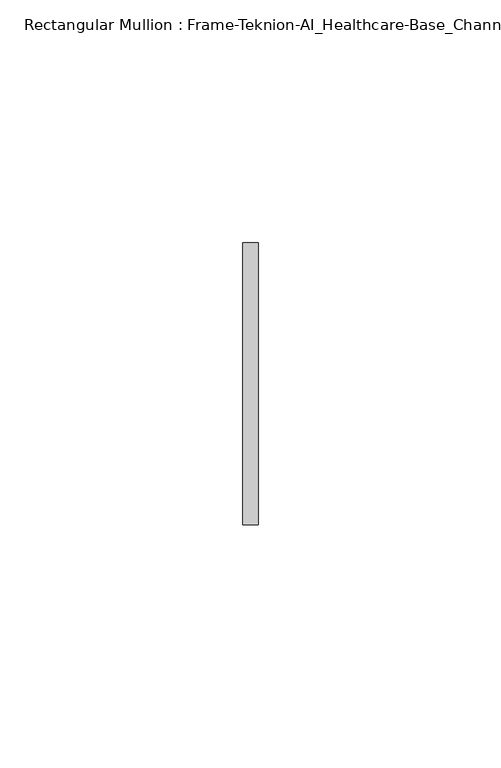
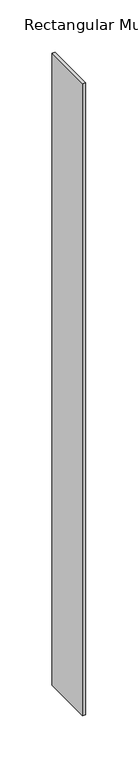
"""IFC4 building model written with IfcOpenShell, lengths in millimetres: member geometry, Rectangular Mullion : Frame-Teknion-AI_Healthcare-Base_Channel."""

import ifcopenshell
import ifcopenshell.guid

model = None  # the IFC model being written
_history = None  # IfcOwnerHistory: only IFC2X3 demands one
_inside = {}  # id of a spatial element -> (the spatial element, [elements in it])
_under = {}  # id of a project, library or spatial element -> (it, [spatial elements below it])
_declared = {}  # id of a project -> (the project, [libraries it declares])
_typed = {}  # id of a type object -> (the type object, [elements of that type])
_made_of = {}  # id of a material, layer set ... -> (it, [elements and type objects made of it])


def new_model(schema):
    """Start an empty IFC model of exactly this schema.

    Asked for "IFC4X3", IfcOpenShell would pick the latest addendum, in which some entities
    have other attributes; the version numbers below select the first issue.
    IFC2X3 requires an IfcOwnerHistory on every rooted entity: one is made here for all.
    """
    global model, _history
    if schema == "IFC4X3":
        model = ifcopenshell.file(schema_version=(4, 3, 0, 0))
    else:
        model = ifcopenshell.file(schema=schema)
    _inside.clear()
    _under.clear()
    _declared.clear()
    _typed.clear()
    _made_of.clear()
    _history = None
    if model.schema == "IFC2X3":
        org = make("IfcOrganization", Name="unknown")
        user = make(
            "IfcPersonAndOrganization",
            ThePerson=make("IfcPerson", FamilyName="unknown"),
            TheOrganization=org,
        )
        app = make(
            "IfcApplication",
            ApplicationDeveloper=org,
            Version="unknown",
            ApplicationFullName="unknown",
            ApplicationIdentifier="unknown",
        )
        _history = make(
            "IfcOwnerHistory",
            OwningUser=user,
            OwningApplication=app,
            ChangeAction="ADDED",
            CreationDate=0,
        )
    return model


def make(cls, **values):
    """One entity of the class cls with the attributes given. An attribute that is None is left unset."""
    return model.create_entity(
        cls, **{name: value for name, value in values.items() if value is not None}
    )


def rooted(cls, **values):
    """An entity with a GlobalId (a new one), such as an element, a storey or a relation."""
    return make(cls, GlobalId=ifcopenshell.guid.new(), OwnerHistory=_history, **values)


def si_unit(unit_type, name, prefix=None):
    """IfcSIUnit, for example si_unit("LENGTHUNIT", "METRE", prefix="MILLI")."""
    return make("IfcSIUnit", UnitType=unit_type, Prefix=prefix, Name=name)


def assignment(units):
    """IfcUnitAssignment: the units of a project."""
    return None if units is None else make("IfcUnitAssignment", Units=units)


def point(xyz):
    """IfcCartesianPoint."""
    return None if xyz is None else make("IfcCartesianPoint", Coordinates=xyz)


def direction(xyz):
    """IfcDirection."""
    return None if xyz is None else make("IfcDirection", DirectionRatios=xyz)


def frame(location, z_axis=None, x_axis=None):
    """IfcAxis2Placement3D, a coordinate frame: its origin and axes. An axis left out is left unset."""
    return make(
        "IfcAxis2Placement3D",
        Location=point(location),
        Axis=direction(z_axis),
        RefDirection=direction(x_axis),
    )


def origin():
    """The frame at (0, 0, 0) with its axes left unset."""
    return frame((0.0, 0.0, 0.0))


def place(relative_to, where):
    """IfcLocalPlacement: puts the frame where relative to a parent placement (None: the world)."""
    return make(
        "IfcLocalPlacement", PlacementRelTo=relative_to, RelativePlacement=where
    )


def context(
    kind, dimensions, precision=None, world=None, true_north=None, identifier=None
):
    """IfcGeometricRepresentationContext, for example the 3D "Model" context."""
    return make(
        "IfcGeometricRepresentationContext",
        ContextIdentifier=identifier,
        ContextType=kind,
        CoordinateSpaceDimension=dimensions,
        Precision=precision,
        WorldCoordinateSystem=world,
        TrueNorth=true_north,
    )


def project(units=None, contexts=None):
    """IfcProject with its units and contexts."""
    return rooted(
        "IfcProject",
        Name="project",
        RepresentationContexts=contexts,
        UnitsInContext=assignment(units),
    )


def spatial(cls, under=None, at=None, **own):
    """A site, building, storey or space (cls), placed at a placement, below another one or the project."""
    s = rooted(cls, ObjectPlacement=at, **own)
    if under is not None:
        _under.setdefault(under.id(), (under, []))[1].append(s)
    return s


def polyline(points):
    """IfcPolyline through the points."""
    return make("IfcPolyline", Points=[point(p) for p in points])


def outline(outer, holes=None, kind="AREA"):
    """IfcArbitraryClosedProfileDef: a profile drawn as a closed curve; with holes, ...WithVoids."""
    if holes is None:
        return make("IfcArbitraryClosedProfileDef", ProfileType=kind, OuterCurve=outer)
    return make(
        "IfcArbitraryProfileDefWithVoids",
        ProfileType=kind,
        OuterCurve=outer,
        InnerCurves=holes,
    )


def extrude(swept, where, along, depth):
    """IfcExtrudedAreaSolid: the profile swept, set in the frame where, extruded along a direction by depth."""
    return make(
        "IfcExtrudedAreaSolid",
        SweptArea=swept,
        Position=where,
        ExtrudedDirection=direction(along),
        Depth=depth,
    )


def shape(context_of_items, identifier, shape_type, items):
    """IfcShapeRepresentation: the items that make up one representation, for example the "Body"."""
    return make(
        "IfcShapeRepresentation",
        ContextOfItems=context_of_items,
        RepresentationIdentifier=identifier,
        RepresentationType=shape_type,
        Items=items,
    )


def source(mapping_origin, context_of_items, identifier, shape_type, items):
    """IfcRepresentationMap: a shape defined once, which mapped items show again and again."""
    return make(
        "IfcRepresentationMap",
        MappingOrigin=mapping_origin,
        MappedRepresentation=shape(context_of_items, identifier, shape_type, items),
    )


def transform(
    local_origin,
    x_axis=None,
    y_axis=None,
    z_axis=None,
    scale=None,
    scale2=None,
    scale3=None,
    uniform=True,
):
    """IfcCartesianTransformationOperator3D, or its non-uniform kind. x_axis, y_axis, z_axis: its Axis1, 2, 3."""
    if uniform:
        return make(
            "IfcCartesianTransformationOperator3D",
            Axis1=direction(x_axis),
            Axis2=direction(y_axis),
            LocalOrigin=point(local_origin),
            Scale=scale,
            Axis3=direction(z_axis),
        )
    return make(
        "IfcCartesianTransformationOperator3DnonUniform",
        Axis1=direction(x_axis),
        Axis2=direction(y_axis),
        LocalOrigin=point(local_origin),
        Scale=scale,
        Axis3=direction(z_axis),
        Scale2=scale2,
        Scale3=scale3,
    )


def mapped(mapping_source, mapping_target):
    """IfcMappedItem: shows the shape of a source again, moved by a transform."""
    return make(
        "IfcMappedItem", MappingSource=mapping_source, MappingTarget=mapping_target
    )


def made_of(thing, what):
    """Note that an element or type object is made of a material, layer set ...; save() writes the relation."""
    if what is not None:
        _made_of.setdefault(what.id(), (what, []))[1].append(thing)
    return thing


def element(
    cls,
    number,
    at=None,
    inside=None,
    cuts=None,
    type_object=None,
    material=None,
    context=None,
    identifier="Body",
    shape_type=None,
    held_by="IfcProductDefinitionShape",
    body=None,
    shapes=None,
    **own,
):
    """One element of the class cls, such as IfcWall. Its Tag is "e" and its number.

    at: its placement. inside: the storey or other place that contains it. cuts: it is an
    opening in that element (IfcRelVoidsElement). A single representation is given by context,
    identifier, shape_type and body (its items); several are given by shapes. held_by: the class
    of the entity that holds the representations. save() writes the other relations.
    """
    e = rooted(cls, Tag="e%d" % number, ObjectPlacement=at, **own)
    if body is not None:
        shapes = [shape(context, identifier, shape_type, body)]
    if shapes is not None:
        e.Representation = make(held_by, Representations=shapes)
    if inside is not None:
        _inside.setdefault(inside.id(), (inside, []))[1].append(e)
    if cuts is not None:
        rooted(
            "IfcRelVoidsElement", RelatingBuildingElement=cuts, RelatedOpeningElement=e
        )
    if type_object is not None:
        _typed.setdefault(type_object.id(), (type_object, []))[1].append(e)
    return made_of(e, material)


def aggregate(whole, parts):
    """IfcRelAggregates: a whole, such as a stair, and the parts it consists of."""
    return rooted("IfcRelAggregates", RelatingObject=whole, RelatedObjects=parts)


def save(model, path):
    """Write the relations noted so far, then the file.

    IfcRelAggregates (storeys below a building ...), IfcRelContainedInSpatialStructure (elements
    in a storey), IfcRelDefinesByType, IfcRelAssociatesMaterial and IfcRelDeclares: one each for
    every whole, place, type object, material and project.
    """
    for whole, parts in _under.values():
        aggregate(whole, parts)
    for where, things in _inside.values():
        rooted(
            "IfcRelContainedInSpatialStructure",
            RelatedElements=things,
            RelatingStructure=where,
        )
    for kind, things in _typed.values():
        rooted("IfcRelDefinesByType", RelatedObjects=things, RelatingType=kind)
    for what, things in _made_of.values():
        rooted("IfcRelAssociatesMaterial", RelatedObjects=things, RelatingMaterial=what)
    for by, libraries in _declared.values():
        rooted("IfcRelDeclares", RelatingContext=by, RelatedDefinitions=libraries)
    model.write(path)


def rectangular_mullion_frame_teknion_ai_healthcare_base_channel_925fae5e(model_context):
    return source(origin(), model_context, "Body", "SweptSolid", [
        extrude(outline(polyline([(0.0, 29.0214844), (0.0, -29.0214844), (-3.175, -29.0214844), (-3.175, 29.0214844), (0.0, 29.0214844)])), frame((0.0, 0.0, -736.6), z_axis=(0.0, 0.0, 1.0), x_axis=(1.0, 0.0, 0.0)), (0.0, 0.0, 1.0), 736.6),
    ])


if __name__ == "__main__":
    model = new_model("IFC4")
    model_context = context("Model", 3, world=origin())
    ifc_project = project(units=[si_unit("LENGTHUNIT", "METRE", prefix="MILLI")], contexts=[model_context])
    site = spatial("IfcSite", under=ifc_project)
    building = spatial("IfcBuilding", under=site)
    placement = place(None, origin())
    rectangular_mullion_frame_teknion_ai_healthcare_base_channel_shape = rectangular_mullion_frame_teknion_ai_healthcare_base_channel_925fae5e(model_context)
    element("IfcMember", 1, ObjectType="Rectangular Mullion : Frame-Teknion-AI_Healthcare-Base_Channel", at=placement, inside=building, context=model_context, shape_type="MappedRepresentation", body=[
        mapped(rectangular_mullion_frame_teknion_ai_healthcare_base_channel_shape, transform((0.0, 0.0, 0.0), x_axis=(1.0, 0.0, 0.0), y_axis=(0.0, 1.0, 0.0), z_axis=(0.0, 0.0, 1.0))),
    ])
    save(model, "model.ifc")
